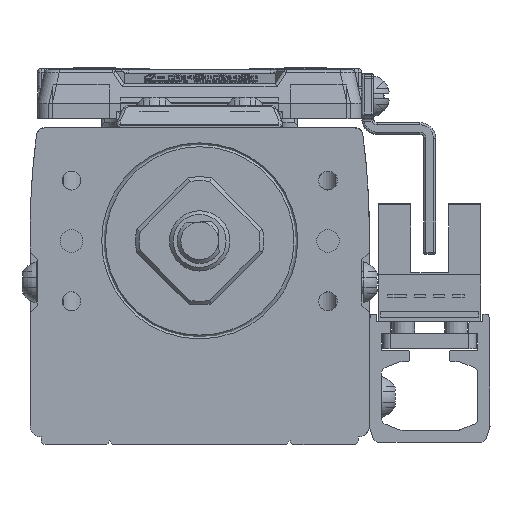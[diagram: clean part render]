
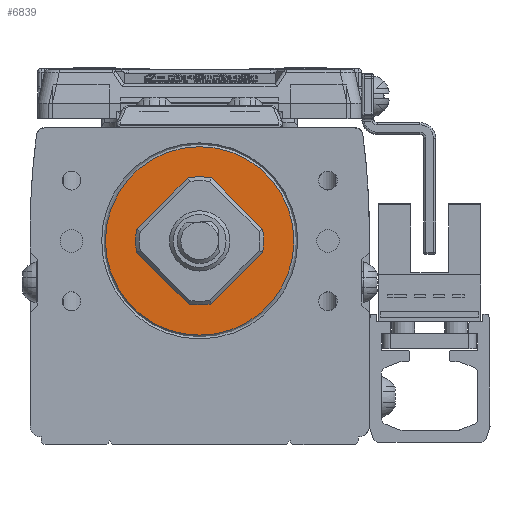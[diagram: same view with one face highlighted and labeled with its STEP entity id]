
A CAD part, left-side view. The second image highlights one B-rep face of the part: STEP entity #6839.
In plain terms, the highlighted planar face has unit normal (-1, 0, 0) as drawn and (0, 0, 1) by its records, which use the part's own axes.
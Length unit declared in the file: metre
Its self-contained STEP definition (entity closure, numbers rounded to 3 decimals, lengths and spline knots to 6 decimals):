
#6839=ADVANCED_FACE('',(#13454,#13455),#13456,.T.);
#13454=FACE_OUTER_BOUND('',#22927,.T.);
#13455=FACE_BOUND('',#22928,.T.);
#13456=PLANE('',#22929);
#22927=EDGE_LOOP('',(#39584));
#22928=EDGE_LOOP('',(#39585));
#22929=AXIS2_PLACEMENT_3D('',#39586,#39587,#39588);
#39584=ORIENTED_EDGE('',*,*,#46265,.T.);
#39585=ORIENTED_EDGE('',*,*,#44565,.F.);
#39586=CARTESIAN_POINT('',(0.000046,-0.005386,0.018));
#39587=DIRECTION('',(0.0,0.0,1.0));
#39588=DIRECTION('',(1.0,0.0,0.0));
#44565=EDGE_CURVE('',#53715,#53715,#53716,.T.);
#46265=EDGE_CURVE('',#55883,#55883,#55884,.T.);
#53715=VERTEX_POINT('',#66760);
#53716=CIRCLE('',#66761,0.004);
#55883=VERTEX_POINT('',#70192);
#55884=CIRCLE('',#70193,0.0125);
#66760=CARTESIAN_POINT('',(0.004,0.0,0.018));
#66761=AXIS2_PLACEMENT_3D('',#75994,#75995,#75996);
#70192=CARTESIAN_POINT('',(-0.0125,0.,0.018));
#70193=AXIS2_PLACEMENT_3D('',#77734,#77735,#77736);
#75994=CARTESIAN_POINT('',(0.0,0.0,0.018));
#75995=DIRECTION('',(0.0,0.0,1.0));
#75996=DIRECTION('',(-1.0,0.0,0.0));
#77734=CARTESIAN_POINT('',(0.0,0.,0.018));
#77735=DIRECTION('',(0.0,0.0,1.0));
#77736=DIRECTION('',(1.0,0.0,0.0));
